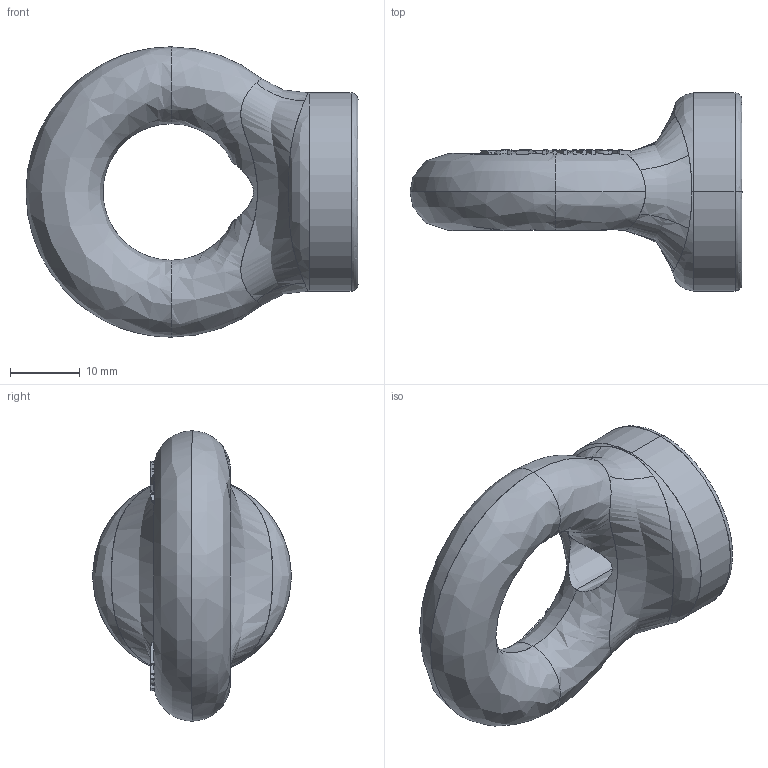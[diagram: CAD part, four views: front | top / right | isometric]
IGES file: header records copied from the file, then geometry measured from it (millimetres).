
Start section: SolidWorks IGES FILE using analytic representation for surfaces
Global section: file name: C:\Documents and Settings\Townley Workstation\Desktop\tooling\Townley products\Eye nuts\10\ENMC10.IGS; native system: SolidWorks 2004 by SolidWorks Corporation; preprocessor: Version 5.3; author: Townley Workstation; date: 100215.090409; units: millimetre
Bounding box: 47.48 x 28.38 x 41.5 mm (x, y, z)
Surface area: 5077.4 mm2 (no closed solid volume)
Topology: 0 solids, 0 shells, 205 faces, 2482 edges, 2482 vertices
Faces by surface type: bspline 199, revolution 6
